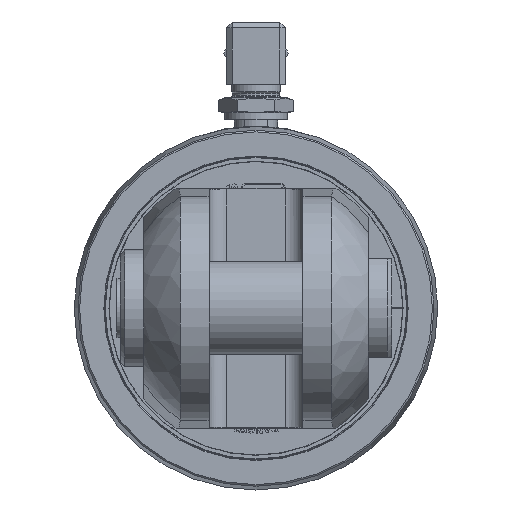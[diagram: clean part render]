
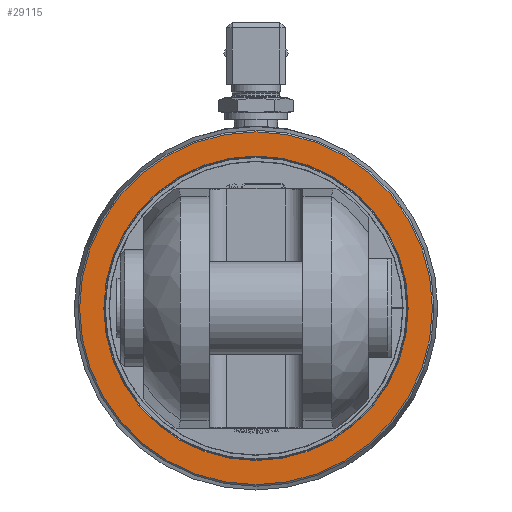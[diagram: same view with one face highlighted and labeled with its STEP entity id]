
A CAD part, left-side view. The second image highlights one B-rep face of the part: STEP entity #29115.
In plain terms, the highlighted planar face has unit normal (-1, 0, 0).
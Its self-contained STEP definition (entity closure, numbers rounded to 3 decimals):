
#158=CIRCLE('',#30830,59.988);
#160=CIRCLE('',#30834,51.75);
#989=PLANE('',#30833);
#3491=FACE_BOUND('',#5490,.T.);
#3821=FACE_OUTER_BOUND('',#5489,.T.);
#5489=EDGE_LOOP('',(#20996));
#5490=EDGE_LOOP('',(#20997));
#13836=VERTEX_POINT('',#38068);
#13838=VERTEX_POINT('',#38074);
#16671=EDGE_CURVE('',#13836,#13836,#158,.T.);
#16673=EDGE_CURVE('',#13838,#13838,#160,.T.);
#20996=ORIENTED_EDGE('',*,*,#16671,.F.);
#20997=ORIENTED_EDGE('',*,*,#16673,.F.);
#29115=ADVANCED_FACE('',(#3821,#3491),#989,.F.);
#30830=AXIS2_PLACEMENT_3D('',#38069,#32399,#32400);
#30833=AXIS2_PLACEMENT_3D('',#38073,#32405,#32406);
#30834=AXIS2_PLACEMENT_3D('',#38075,#32407,#32408);
#32399=DIRECTION('center_axis',(1.,0.,0.));
#32400=DIRECTION('ref_axis',(0.,-1.,0.));
#32405=DIRECTION('center_axis',(1.,0.,0.));
#32406=DIRECTION('ref_axis',(0.,0.,-1.));
#32407=DIRECTION('center_axis',(-1.,0.,0.));
#32408=DIRECTION('ref_axis',(0.,-1.,0.));
#38068=CARTESIAN_POINT('',(-715.5,59.988,0.));
#38069=CARTESIAN_POINT('Origin',(-715.5,0.,0.));
#38073=CARTESIAN_POINT('Origin',(-715.5,0.,0.));
#38074=CARTESIAN_POINT('',(-715.5,51.75,0.));
#38075=CARTESIAN_POINT('Origin',(-715.5,0.,0.));
